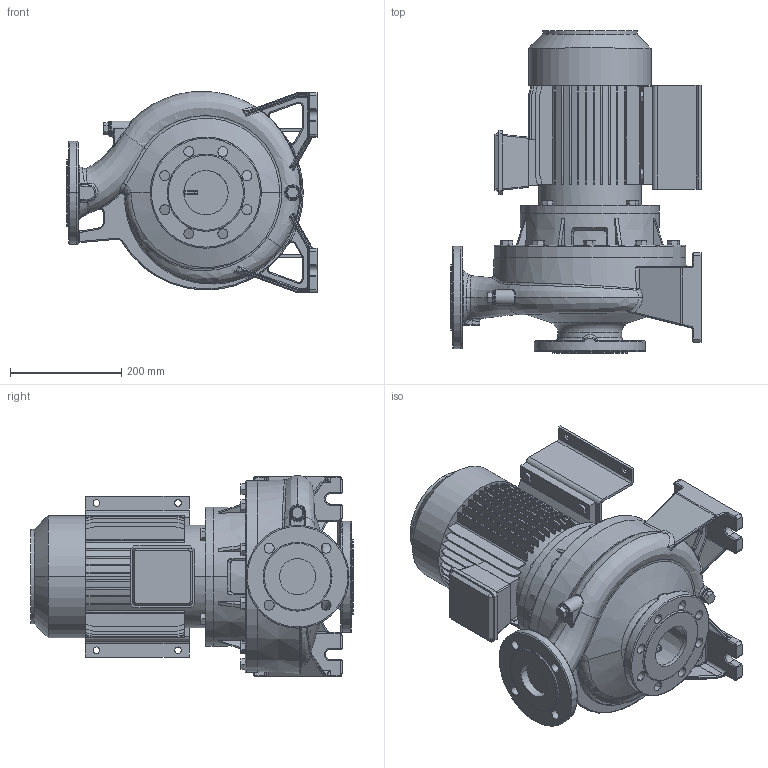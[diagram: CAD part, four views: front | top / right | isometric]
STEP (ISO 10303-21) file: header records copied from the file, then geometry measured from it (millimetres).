
FILE_DESCRIPTION((''),'2;1');
FILE_NAME('3S4_65-250_4_IE3_ASM','2016-09-24T',('rosa'),('"Ebara Pumps Europe +39.444.706811"'),'PRO/ENGINEER BY PARAMETRIC TECHNOLOGY CORPORATION, 2012130','PRO/ENGINEER BY PARAMETRIC TECHNOLOGY CORPORATION, 2012130','');
FILE_SCHEMA(('AUTOMOTIVE_DESIGN { 1 0 10303 214 1 1 1 1 }'));
Length unit declared in the file: millimetre
Products named in the file (6): MOTORE_112_4_KW_4POLI_B35; SOSTEGNO_72192; M10X22; SUPPORTO_3S_266_100_112; CORPO_POMPA_65-250; 3S4_65-250_4_IE3_ASM
Assembly tree (8 placements, depth 2):
  3S4_65-250_4_IE3_ASM
    MOTORE_112_4_KW_4POLI_B35
    SOSTEGNO_72192
    M10X22  x4
    SUPPORTO_3S_266_100_112
    CORPO_POMPA_65-250
Bounding box: 450 x 580 x 362.52 mm (x, y, z)
Volume: 26264948.5 mm3; surface area: 1736750.6 mm2
Topology: 8 solids, 8 shells, 1333 faces, 3242 edges, 1999 vertices
Faces by surface type: plane 617, cylinder 288, bspline 235, torus 113, cone 59, sphere 21
Entity records: 60383 total; most frequent: CARTESIAN_POINT 21214, ORIENTED_EDGE 6208, DIRECTION 5555, PRESENTATION_STYLE_ASSIGNMENT 3109, STYLED_ITEM 3109, CURVE_STYLE 3104, EDGE_CURVE 3104, AXIS2_PLACEMENT_3D 1993
